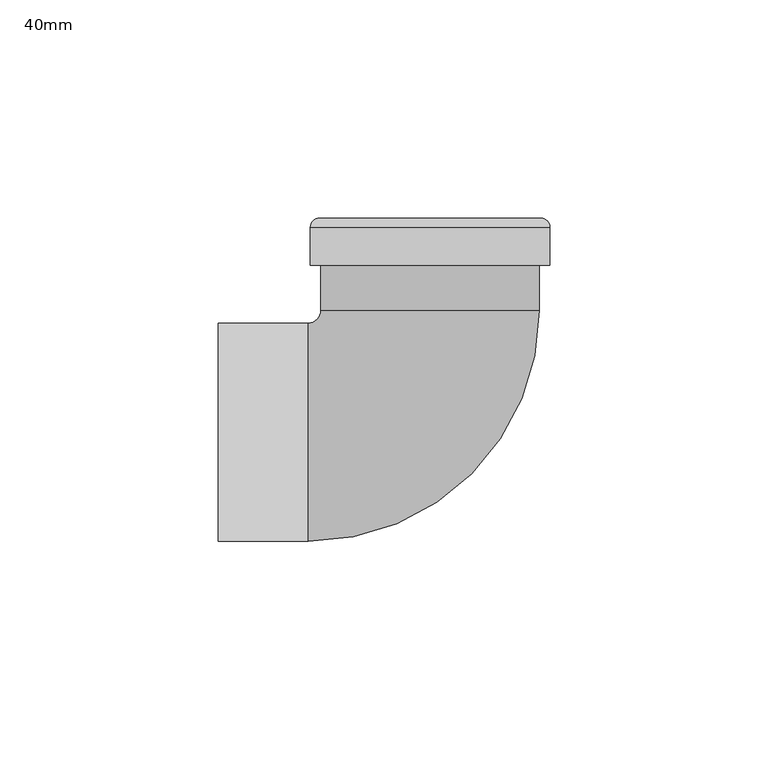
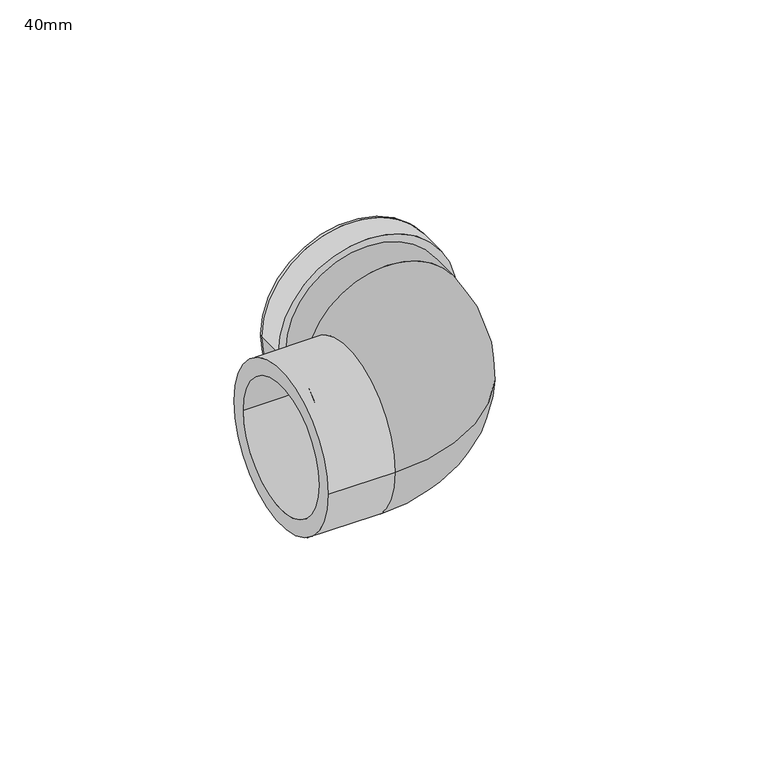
"""IFC4 building model written with IfcOpenShell, lengths in millimetres: pipe fitting geometry, Durapipe_PipeFitting_PVC_PlainThreadedElbows90Deg : 40mm."""

from ifc_helpers import new_model, si_unit, point, frame, origin, place, context, project, spatial, polyline, circle_curve, ellipse_curve, trimmed, source, transform, mapped, element, save
from ifc_brep_helpers import plane_surface, cylinder_surface, revolved_surface, advanced_brep


def pipe_fitting_40mm_dacfa39e(model_context):
    return source(origin(), model_context, "Body", "AdvancedBrep", [
        advanced_brep(
        [(-25.0, 38.2, 0.0), (25.0, 38.2, 0.0), (20.0, 38.2, 0.0), (-20.0, 38.2, 0.0), (-48.5, 25.0, 0.0), (-48.5, -25.0, 0.0), (-48.5, 20.0, 0.0), (-48.5, -20.0, 0.0), (-25.0, 27.9, 0.0), (25.0, 27.9, 0.0), (-27.9, 25.0, 0.0), (-27.9, -25.0, 0.0), (-22.5, -20.0, 0.0), (-22.5, 20.0, 0.0), (-20.0, 24.5, 0.0), (20.0, 24.5, 0.0)],
        [
            (0, 1, circle_curve(frame((0.0, 38.2, 0.0), z_axis=(0.0, 1.0, 0.0), x_axis=(1.0, 0.0, 0.0)), 25.0)),
            (1, 0, circle_curve(frame((0.0, 38.2, 0.0), z_axis=(0.0, 1.0, 0.0), x_axis=(1.0, 0.0, 0.0)), 25.0)),
            (2, 3, circle_curve(frame((0.0, 38.2, 0.0), z_axis=(0.0, -1.0, 0.0), x_axis=(1.0, 0.0, 0.0)), 20.0)),
            (3, 2, circle_curve(frame((0.0, 38.2, 0.0), z_axis=(0.0, -1.0, 0.0), x_axis=(1.0, 0.0, 0.0)), 20.0)),
            (4, 5, circle_curve(frame((-48.5, 0.0, 0.0), z_axis=(-1.0, 0.0, 0.0), x_axis=(0.0, -1.0, 0.0)), 25.0)),
            (5, 4, circle_curve(frame((-48.5, 0.0, 0.0), z_axis=(-1.0, 0.0, 0.0), x_axis=(0.0, -1.0, 0.0)), 25.0)),
            (6, 7, circle_curve(frame((-48.5, 0.0, 0.0), z_axis=(1.0, 0.0, 0.0), x_axis=(0.0, 1.0, 0.0)), 20.0)),
            (7, 6, circle_curve(frame((-48.5, 0.0, 0.0), z_axis=(1.0, 0.0, 0.0), x_axis=(0.0, 1.0, 0.0)), 20.0)),
            (0, 8),
            (8, 9, circle_curve(frame((0.0, 27.9, 0.0), z_axis=(0.0, 1.0, 0.0), x_axis=(1.0, 0.0, 0.0)), 25.0)),
            (9, 1),
            (9, 8, circle_curve(frame((0.0, 27.9, 0.0), z_axis=(0.0, 1.0, 0.0), x_axis=(1.0, 0.0, 0.0)), 25.0)),
            (8, 10, circle_curve(frame((-27.9, 27.9, 0.0), z_axis=(0.0, 0.0, -1.0), x_axis=(1.0, 0.0, 0.0)), 2.9)),
            (10, 11, circle_curve(frame((-27.9, 0.0, 0.0), z_axis=(1.0, 0.0, 0.0), x_axis=(0.0, -1.0, 0.0)), 25.0)),
            (11, 9, circle_curve(frame((-27.9, 27.9, 0.0), z_axis=(0.0, 0.0, 1.0), x_axis=(1.0, 0.0, 0.0)), 52.9)),
            (11, 10, circle_curve(frame((-27.9, 0.0, 0.0), z_axis=(1.0, 0.0, 0.0), x_axis=(0.0, -1.0, 0.0)), 25.0)),
            (5, 11),
            (10, 4),
            (12, 13, circle_curve(frame((-22.5, 0.0, 0.0), z_axis=(-1.0, 0.0, 0.0), x_axis=(0.0, 1.0, 0.0)), 20.0)),
            (13, 12, circle_curve(frame((-22.5, 0.0, 0.0), z_axis=(-1.0, 0.0, 0.0), x_axis=(0.0, 1.0, 0.0)), 20.0)),
            (12, 7),
            (6, 13),
            (14, 15, circle_curve(frame((0.0, 24.5, 0.0), z_axis=(0.0, 1.0, 0.0), x_axis=(1.0, 0.0, 0.0)), 20.0)),
            (15, 14, circle_curve(frame((0.0, 24.5, 0.0), z_axis=(0.0, 1.0, 0.0), x_axis=(1.0, 0.0, 0.0)), 20.0)),
            (14, 3),
            (2, 15),
        ],
        [
            plane_surface(frame((0.0, 38.2, 0.0), z_axis=(0.0, 1.0, 0.0), x_axis=(0.0, 0.0, 1.0))),
            plane_surface(frame((-48.5, 0.0, 0.0), z_axis=(-1.0, 0.0, 0.0), x_axis=(0.0, 0.0, 1.0))),
            cylinder_surface(frame((0.0, 38.2, 0.0), z_axis=(0.0, 1.0, 0.0), x_axis=(1.0, 0.0, 0.0)), 25.0),
            revolved_surface(trimmed(ellipse_curve(frame((0.0, 27.9, 0.0), z_axis=(0.0, 1.0, 0.0), x_axis=(1.0, 0.0, 0.0)), 25.0, 25.0), [point((-25.0, 27.9, 0.0))], [point((25.0, 27.9, 0.0))], True, "CARTESIAN"), (-27.9, 27.9, 0.0), (0.0, 0.0, -1.0)),
            revolved_surface(trimmed(ellipse_curve(frame((0.0, 27.9, 0.0), z_axis=(0.0, 1.0, 0.0), x_axis=(1.0, 0.0, 0.0)), 25.0, 25.0), [point((25.0, 27.9, 0.0))], [point((-25.0, 27.9, 0.0))], True, "CARTESIAN"), (-27.9, 27.9, 0.0), (0.0, 0.0, -1.0)),
            cylinder_surface(frame((-27.9, 0.0, 0.0), z_axis=(1.0, 0.0, 0.0), x_axis=(0.0, -1.0, 0.0)), 25.0),
            plane_surface(frame((-22.5, 0.0, 0.0), z_axis=(-1.0, 0.0, 0.0), x_axis=(0.0, 0.0, 1.0))),
            revolved_surface(polyline([(-48.5, 20.0, 0.0), (-22.5, 20.0, 0.0)]), (-48.5, 0.0, 0.0), (-1.0, 0.0, 0.0)),
            plane_surface(frame((0.0, 24.5, 0.0), z_axis=(0.0, 1.0, 0.0), x_axis=(0.0, 0.0, 1.0))),
            revolved_surface(polyline([(20.0, 38.2, 0.0), (20.0, 24.5, 0.0)]), (0.0, 49.0, 0.0), (0.0, 1.0, 0.0)),
        ],
        [
            (0, [[1, 2], [3, 4]]),
            (1, [[5, 6], [7, 8]]),
            (2, [[-1, 9, 10, 11]]),
            (2, [[-2, -11, 12, -9]]),
            (3, [[-10, 13, 14, 15]]),
            (4, [[-12, -15, 16, -13]]),
            (5, [[-6, 17, -14, 18]]),
            (5, [[-5, -18, -16, -17]]),
            (6, [[19, 20]]),
            (7, [[-19, 21, -7, 22]]),
            (7, [[-20, -22, -8, -21]]),
            (8, [[23, 24]]),
            (9, [[-23, 25, -3, 26]]),
            (9, [[-24, -26, -4, -25]]),
        ],
    ),
        advanced_brep(
        [(25.3754699, 49.0, 0.0), (-25.3754699, 49.0, 0.0), (-20.0, 49.0, 0.0), (20.0, 49.0, 0.0), (27.4, 46.9754699, 0.0), (-27.4, 46.9754699, 0.0), (27.4, 38.2, 0.0), (-27.4, 38.2, 0.0), (20.0, 38.2, 0.0), (-20.0, 38.2, 0.0)],
        [
            (0, 1, circle_curve(frame((0.0, 49.0, 0.0), z_axis=(0.0, 1.0, 0.0), x_axis=(-1.0, 0.0, 0.0)), 25.3754699)),
            (1, 2),
            (2, 3, circle_curve(frame((0.0, 49.0, 0.0), z_axis=(0.0, -1.0, 0.0), x_axis=(-1.0, 0.0, 0.0)), 20.0)),
            (3, 0),
            (1, 0, circle_curve(frame((0.0, 49.0, 0.0), z_axis=(0.0, 1.0, 0.0), x_axis=(-1.0, 0.0, 0.0)), 25.3754699)),
            (3, 2, circle_curve(frame((0.0, 49.0, 0.0), z_axis=(0.0, -1.0, 0.0), x_axis=(-1.0, 0.0, 0.0)), 20.0)),
            (4, 5, circle_curve(frame((0.0, 46.9754699, 0.0), z_axis=(0.0, 1.0, 0.0), x_axis=(-1.0, 0.0, 0.0)), 27.4)),
            (5, 1, circle_curve(frame((-25.3754699, 46.9754699, 0.0), z_axis=(0.0, 0.0, -1.0), x_axis=(1.0, 0.0, 0.0)), 2.0245301)),
            (0, 4, circle_curve(frame((25.3754699, 46.9754699, 0.0), z_axis=(0.0, 0.0, -1.0), x_axis=(-1.0, 0.0, 0.0)), 2.0245301)),
            (5, 4, circle_curve(frame((0.0, 46.9754699, 0.0), z_axis=(0.0, 1.0, 0.0), x_axis=(-1.0, 0.0, 0.0)), 27.4)),
            (6, 7, circle_curve(frame((0.0, 38.2, 0.0), z_axis=(0.0, 1.0, 0.0), x_axis=(-1.0, 0.0, 0.0)), 27.4)),
            (7, 5),
            (4, 6),
            (7, 6, circle_curve(frame((0.0, 38.2, 0.0), z_axis=(0.0, 1.0, 0.0), x_axis=(-1.0, 0.0, 0.0)), 27.4)),
            (8, 9, circle_curve(frame((0.0, 38.2, 0.0), z_axis=(0.0, 1.0, 0.0), x_axis=(-1.0, 0.0, 0.0)), 20.0)),
            (9, 7),
            (6, 8),
            (9, 8, circle_curve(frame((0.0, 38.2, 0.0), z_axis=(0.0, 1.0, 0.0), x_axis=(-1.0, 0.0, 0.0)), 20.0)),
            (2, 9),
            (8, 3),
        ],
        [
            plane_surface(frame((0.0, 49.0, 0.0), z_axis=(0.0, 1.0, 0.0), x_axis=(-1.0, 0.0, 0.0))),
            revolved_surface(trimmed(ellipse_curve(frame((-25.3754699, 46.9754699, 0.0), z_axis=(0.0, 0.0, 1.0), x_axis=(1.0, 0.0, 0.0)), 2.0245301, 2.0245301), [point((-25.3754699, 49.0, 0.0))], [point((-27.4, 46.9754699, 0.0))], True, "CARTESIAN"), (0.0, 61.7371208, 0.0), (0.0, -1.0, 0.0)),
            cylinder_surface(frame((0.0, 61.7371208, 0.0), z_axis=(0.0, -1.0, 0.0), x_axis=(-1.0, 0.0, 0.0)), 27.4),
            plane_surface(frame((0.0, 38.2, 0.0), z_axis=(0.0, -1.0, 0.0), x_axis=(-1.0, 0.0, 0.0))),
            revolved_surface(polyline([(-20.0, 38.2, 0.0), (-20.0, 49.0, 0.0)]), (0.0, 61.7371208, 0.0), (0.0, -1.0, 0.0)),
        ],
        [
            (0, [[1, 2, 3, 4]]),
            (0, [[5, -4, 6, -2]]),
            (1, [[7, 8, -1, 9]]),
            (1, [[10, -9, -5, -8]]),
            (2, [[11, 12, -7, 13]]),
            (2, [[14, -13, -10, -12]]),
            (3, [[15, 16, -11, 17]]),
            (3, [[18, -17, -14, -16]]),
            (4, [[-3, 19, -15, 20]]),
            (4, [[-6, -20, -18, -19]]),
        ],
    ),
    ])


if __name__ == "__main__":
    model = new_model("IFC4")
    model_context = context("Model", 3, world=origin())
    ifc_project = project(units=[si_unit("LENGTHUNIT", "METRE", prefix="MILLI")], contexts=[model_context])
    site = spatial("IfcSite", under=ifc_project)
    building = spatial("IfcBuilding", under=site)
    placement = place(None, origin())
    pipe_fitting_40mm_shape = pipe_fitting_40mm_dacfa39e(model_context)
    element("IfcPipeFitting", 1, ObjectType="Durapipe_PipeFitting_PVC_PlainThreadedElbows90Deg : 40mm", at=placement, inside=building, context=model_context, shape_type="MappedRepresentation", body=[
        mapped(pipe_fitting_40mm_shape, transform((0.0, 0.0, 0.0), x_axis=(1.0, 0.0, 0.0), y_axis=(0.0, 1.0, 0.0), z_axis=(0.0, 0.0, 1.0))),
    ])
    save(model, "model.ifc")
